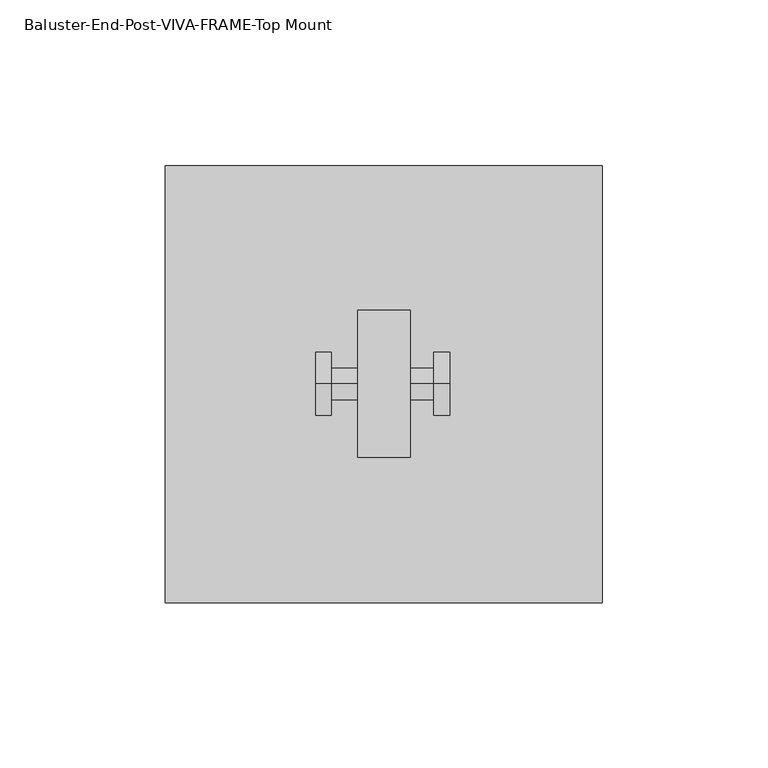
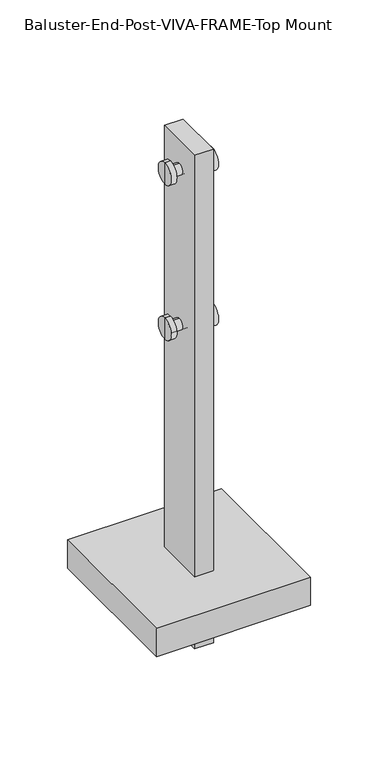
"""IFC4 building model written with IfcOpenShell, lengths in millimetres: proxy geometry, Baluster-End-Post-VIVA-FRAME-Top Mount : ANCHORED TO CONCRETE_TOP MOUNT FOLD_STRAIGHT."""

from ifc_helpers import new_model, si_unit, frame, origin, place, context, project, spatial, polyline, circle_curve, outline, extrude, source, transform, mapped, element, save
from ifc_brep_helpers import plane_surface, cylinder_surface, advanced_brep


def baluster_end_post_viva_frame_top_mount_efd1a991(model_context):
    return source(origin(), model_context, "Body", "SolidModel", [
        extrude(outline(polyline([(7.9375, -78.2802567), (7.9375, -122.7302567), (-7.9375, -122.7302567), (-7.9375, -78.2802567), (7.9375, -78.2802567)])), frame((0.0, 0.0, -39.2093072), z_axis=(0.0, 0.0, 1.0), x_axis=(1.0, 0.0, 0.0)), (0.0, 0.0, 1.0), 446.1236627),
        advanced_brep(
        [(-20.6502, -100.5078, 231.7496), (-20.6502, -100.5078, 250.8504), (-20.6502, -100.5078, 241.3), (-15.875, -100.5078, 231.7496), (-15.875, -100.5078, 250.8504), (-15.875, -100.5078, 236.5248), (-15.875, -100.5078, 246.0752), (15.0622, -100.5078, 236.5248), (15.0622, -100.5078, 246.0752), (15.0622, -100.5078, 231.7496), (15.0622, -100.5078, 250.8504), (19.8374, -100.5078, 231.7496), (19.8374, -100.5078, 250.8504), (19.8374, -100.5078, 241.3)],
        [
            (0, 1, circle_curve(frame((-20.6502, -100.5078, 241.3), z_axis=(-1.0, 0.0, 0.0), x_axis=(0.0, 0.0, 1.0)), 9.5504)),
            (1, 2),
            (2, 0),
            (1, 0, circle_curve(frame((-20.6502, -100.5078, 241.3), z_axis=(-1.0, 0.0, 0.0), x_axis=(0.0, 0.0, 1.0)), 9.5504)),
            (3, 4, circle_curve(frame((-15.875, -100.5078, 241.3), z_axis=(-1.0, 0.0, 0.0), x_axis=(0.0, 0.0, 1.0)), 9.5504)),
            (4, 1),
            (0, 3),
            (4, 3, circle_curve(frame((-15.875, -100.5078, 241.3), z_axis=(-1.0, 0.0, 0.0), x_axis=(0.0, 0.0, 1.0)), 9.5504)),
            (5, 6, circle_curve(frame((-15.875, -100.5078, 241.3), z_axis=(-1.0, 0.0, 0.0), x_axis=(0.0, 0.0, 1.0)), 4.7752)),
            (6, 4),
            (3, 5),
            (6, 5, circle_curve(frame((-15.875, -100.5078, 241.3), z_axis=(-1.0, 0.0, 0.0), x_axis=(0.0, 0.0, 1.0)), 4.7752)),
            (7, 8, circle_curve(frame((15.0622, -100.5078, 241.3), z_axis=(-1.0, 0.0, 0.0), x_axis=(0.0, 0.0, 1.0)), 4.7752)),
            (8, 6),
            (5, 7),
            (8, 7, circle_curve(frame((15.0622, -100.5078, 241.3), z_axis=(-1.0, 0.0, 0.0), x_axis=(0.0, 0.0, 1.0)), 4.7752)),
            (9, 10, circle_curve(frame((15.0622, -100.5078, 241.3), z_axis=(-1.0, 0.0, 0.0), x_axis=(0.0, 0.0, 1.0)), 9.5504)),
            (10, 8),
            (7, 9),
            (10, 9, circle_curve(frame((15.0622, -100.5078, 241.3), z_axis=(-1.0, 0.0, 0.0), x_axis=(0.0, 0.0, 1.0)), 9.5504)),
            (11, 12, circle_curve(frame((19.8374, -100.5078, 241.3), z_axis=(-1.0, 0.0, 0.0), x_axis=(0.0, 0.0, 1.0)), 9.5504)),
            (12, 10),
            (9, 11),
            (12, 11, circle_curve(frame((19.8374, -100.5078, 241.3), z_axis=(-1.0, 0.0, 0.0), x_axis=(0.0, 0.0, 1.0)), 9.5504)),
            (13, 12),
            (11, 13),
        ],
        [
            plane_surface(frame((-20.6502, -100.5078, 241.3), z_axis=(-1.0, 0.0, 0.0), x_axis=(0.0, 0.0, 1.0))),
            cylinder_surface(frame((-3412.2305571, -100.5078, 241.3), z_axis=(1.0, 0.0, 0.0), x_axis=(0.0, 0.0, 1.0)), 9.5504),
            plane_surface(frame((-15.875, -100.5078, 241.3), z_axis=(1.0, 0.0, 0.0), x_axis=(0.0, 0.0, 1.0))),
            cylinder_surface(frame((-3412.2305571, -100.5078, 241.3), z_axis=(1.0, 0.0, 0.0), x_axis=(0.0, 0.0, 1.0)), 4.7752),
            plane_surface(frame((15.0622, -100.5078, 241.3), z_axis=(-1.0, 0.0, 0.0), x_axis=(0.0, 0.0, 1.0))),
            plane_surface(frame((19.8374, -100.5078, 241.3), z_axis=(1.0, 0.0, 0.0), x_axis=(0.0, 0.0, 1.0))),
        ],
        [
            (0, [[1, 2, 3]]),
            (0, [[4, -3, -2]]),
            (1, [[5, 6, -1, 7]]),
            (1, [[8, -7, -4, -6]]),
            (2, [[9, 10, -5, 11]]),
            (2, [[12, -11, -8, -10]]),
            (3, [[13, 14, -9, 15]]),
            (3, [[16, -15, -12, -14]]),
            (4, [[17, 18, -13, 19]]),
            (4, [[20, -19, -16, -18]]),
            (1, [[21, 22, -17, 23]]),
            (1, [[24, -23, -20, -22]]),
            (5, [[25, -21, 26]]),
            (5, [[-26, -24, -25]]),
        ],
    ),
        advanced_brep(
        [(-20.6502, -100.5078, 371.9639555), (-20.6502, -100.5078, 391.0647555), (-20.6502, -100.5078, 381.5143555), (-15.875, -100.5078, 371.9639555), (-15.875, -100.5078, 391.0647555), (-15.875, -100.5078, 376.7391555), (-15.875, -100.5078, 386.2895555), (15.0622, -100.5078, 376.7391555), (15.0622, -100.5078, 386.2895555), (15.0622, -100.5078, 371.9639555), (15.0622, -100.5078, 391.0647555), (19.8374, -100.5078, 371.9639555), (19.8374, -100.5078, 391.0647555), (19.8374, -100.5078, 381.5143555)],
        [
            (0, 1, circle_curve(frame((-20.6502, -100.5078, 381.5143555), z_axis=(-1.0, 0.0, 0.0), x_axis=(0.0, 0.0, 1.0)), 9.5504)),
            (1, 2),
            (2, 0),
            (1, 0, circle_curve(frame((-20.6502, -100.5078, 381.5143555), z_axis=(-1.0, 0.0, 0.0), x_axis=(0.0, 0.0, 1.0)), 9.5504)),
            (3, 4, circle_curve(frame((-15.875, -100.5078, 381.5143555), z_axis=(-1.0, 0.0, 0.0), x_axis=(0.0, 0.0, 1.0)), 9.5504)),
            (4, 1),
            (0, 3),
            (4, 3, circle_curve(frame((-15.875, -100.5078, 381.5143555), z_axis=(-1.0, 0.0, 0.0), x_axis=(0.0, 0.0, 1.0)), 9.5504)),
            (5, 6, circle_curve(frame((-15.875, -100.5078, 381.5143555), z_axis=(-1.0, 0.0, 0.0), x_axis=(0.0, 0.0, 1.0)), 4.7752)),
            (6, 4),
            (3, 5),
            (6, 5, circle_curve(frame((-15.875, -100.5078, 381.5143555), z_axis=(-1.0, 0.0, 0.0), x_axis=(0.0, 0.0, 1.0)), 4.7752)),
            (7, 8, circle_curve(frame((15.0622, -100.5078, 381.5143555), z_axis=(-1.0, 0.0, 0.0), x_axis=(0.0, 0.0, 1.0)), 4.7752)),
            (8, 6),
            (5, 7),
            (8, 7, circle_curve(frame((15.0622, -100.5078, 381.5143555), z_axis=(-1.0, 0.0, 0.0), x_axis=(0.0, 0.0, 1.0)), 4.7752)),
            (9, 10, circle_curve(frame((15.0622, -100.5078, 381.5143555), z_axis=(-1.0, 0.0, 0.0), x_axis=(0.0, 0.0, 1.0)), 9.5504)),
            (10, 8),
            (7, 9),
            (10, 9, circle_curve(frame((15.0622, -100.5078, 381.5143555), z_axis=(-1.0, 0.0, 0.0), x_axis=(0.0, 0.0, 1.0)), 9.5504)),
            (11, 12, circle_curve(frame((19.8374, -100.5078, 381.5143555), z_axis=(-1.0, 0.0, 0.0), x_axis=(0.0, 0.0, 1.0)), 9.5504)),
            (12, 10),
            (9, 11),
            (12, 11, circle_curve(frame((19.8374, -100.5078, 381.5143555), z_axis=(-1.0, 0.0, 0.0), x_axis=(0.0, 0.0, 1.0)), 9.5504)),
            (13, 12),
            (11, 13),
        ],
        [
            plane_surface(frame((-20.6502, -100.5078, 381.5143555), z_axis=(-1.0, 0.0, 0.0), x_axis=(0.0, 0.0, 1.0))),
            cylinder_surface(frame((-3412.2305571, -100.5078, 381.5143555), z_axis=(1.0, 0.0, 0.0), x_axis=(0.0, 0.0, 1.0)), 9.5504),
            plane_surface(frame((-15.875, -100.5078, 381.5143555), z_axis=(1.0, 0.0, 0.0), x_axis=(0.0, 0.0, 1.0))),
            cylinder_surface(frame((-3412.2305571, -100.5078, 381.5143555), z_axis=(1.0, 0.0, 0.0), x_axis=(0.0, 0.0, 1.0)), 4.7752),
            plane_surface(frame((15.0622, -100.5078, 381.5143555), z_axis=(-1.0, 0.0, 0.0), x_axis=(0.0, 0.0, 1.0))),
            plane_surface(frame((19.8374, -100.5078, 381.5143555), z_axis=(1.0, 0.0, 0.0), x_axis=(0.0, 0.0, 1.0))),
        ],
        [
            (0, [[1, 2, 3]]),
            (0, [[4, -3, -2]]),
            (1, [[5, 6, -1, 7]]),
            (1, [[8, -7, -4, -6]]),
            (2, [[9, 10, -5, 11]]),
            (2, [[12, -11, -8, -10]]),
            (3, [[13, 14, -9, 15]]),
            (3, [[16, -15, -12, -14]]),
            (4, [[17, 18, -13, 19]]),
            (4, [[20, -19, -16, -18]]),
            (1, [[21, 22, -17, 23]]),
            (1, [[24, -23, -20, -22]]),
            (5, [[25, -21, 26]]),
            (5, [[-26, -24, -25]]),
        ],
    ),
        extrude(outline(polyline([(-66.0, -34.5052567), (66.0, -34.5052567), (66.0, -166.5052567), (-66.0, -166.5052567), (-66.0, -34.5052567)])), frame((0.0, 0.0, 0.5143555), z_axis=(0.0, 0.0, 1.0), x_axis=(1.0, 0.0, 0.0)), (0.0, 0.0, 1.0), 25.4),
    ])


if __name__ == "__main__":
    model = new_model("IFC4")
    model_context = context("Model", 3, world=origin())
    ifc_project = project(units=[si_unit("LENGTHUNIT", "METRE", prefix="MILLI")], contexts=[model_context])
    site = spatial("IfcSite", under=ifc_project)
    building = spatial("IfcBuilding", under=site)
    placement = place(None, origin())
    baluster_end_post_viva_frame_top_mount_shape = baluster_end_post_viva_frame_top_mount_efd1a991(model_context)
    element("IfcBuildingElementProxy", 1, Name="Baluster-End-Post-VIVA-FRAME-Top Mount : ANCHORED TO CONCRETE_TOP MOUNT FOLD_STRAIGHT", ObjectType="Baluster-End-Post-VIVA-FRAME-Top Mount : ANCHORED TO CONCRETE_TOP MOUNT FOLD_STRAIGHT", at=placement, inside=building, context=model_context, shape_type="MappedRepresentation", body=[
        mapped(baluster_end_post_viva_frame_top_mount_shape, transform((0.0, 0.0, 0.0), x_axis=(1.0, 0.0, 0.0), y_axis=(0.0, 1.0, 0.0), z_axis=(0.0, 0.0, 1.0))),
    ])
    save(model, "model.ifc")
